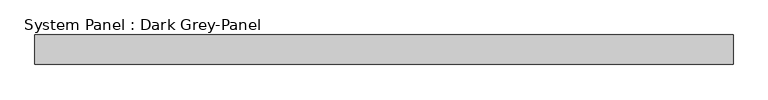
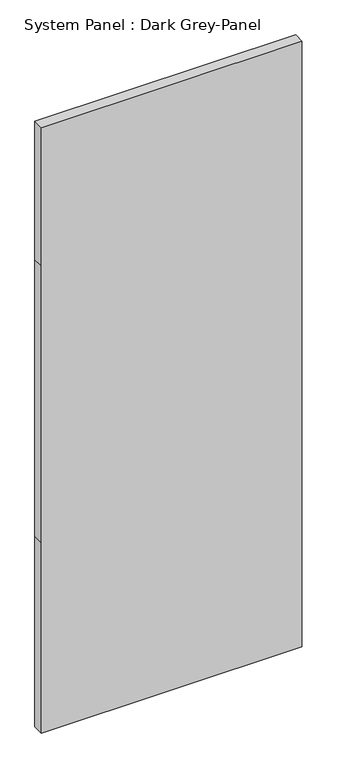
"""IFC4 building model written with IfcOpenShell, lengths in millimetres: plate geometry, System Panel : Dark Grey-Panel."""

from ifc_helpers import new_model, si_unit, frame, origin, place, context, project, spatial, polyline, outline, extrude, source, transform, mapped, element, save


def system_panel_dark_grey_panel_97f951a3(model_context):
    return source(origin(), model_context, "Body", "SweptSolid", [
        extrude(outline(polyline([(0.0, -712.5), (0.0, 712.5), (1100.0, 712.5), (2700.0, 712.5), (3500.0, 712.5), (3500.0, -712.5), (2700.0, -712.5), (1100.0, -712.5), (0.0, -712.5)])), frame((0.0, -10.5, 0.0), z_axis=(0.0, 1.0, 0.0), x_axis=(0.0, 0.0, 1.0)), (0.0, 0.0, 1.0), 60.0),
    ])


if __name__ == "__main__":
    model = new_model("IFC4")
    model_context = context("Model", 3, world=origin())
    ifc_project = project(units=[si_unit("LENGTHUNIT", "METRE", prefix="MILLI")], contexts=[model_context])
    site = spatial("IfcSite", under=ifc_project)
    building = spatial("IfcBuilding", under=site)
    placement = place(None, origin())
    system_panel_dark_grey_panel_shape = system_panel_dark_grey_panel_97f951a3(model_context)
    element("IfcPlate", 1, ObjectType="System Panel : Dark Grey-Panel", at=placement, inside=building, context=model_context, shape_type="MappedRepresentation", body=[
        mapped(system_panel_dark_grey_panel_shape, transform((0.0, 0.0, 0.0), x_axis=(1.0, 0.0, 0.0), y_axis=(0.0, 1.0, 0.0), z_axis=(0.0, 0.0, 1.0))),
    ])
    save(model, "model.ifc")
